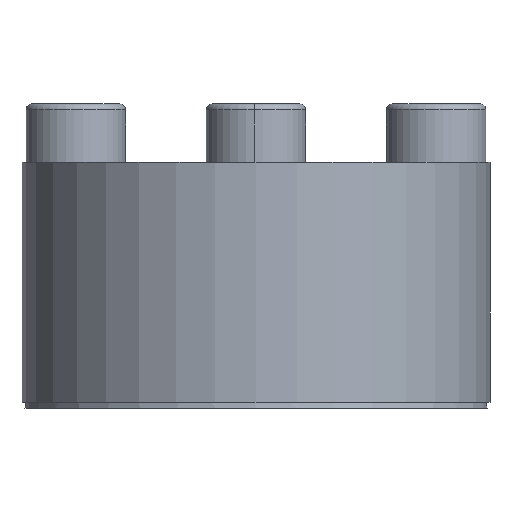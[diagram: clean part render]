
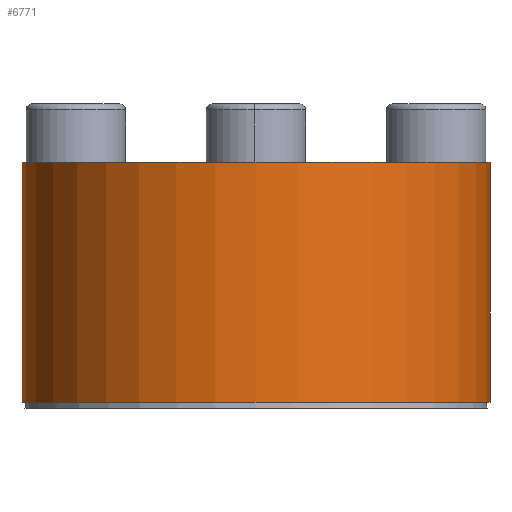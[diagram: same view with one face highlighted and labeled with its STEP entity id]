
A CAD part, front view. The second image highlights one B-rep face of the part: STEP entity #6771.
In plain terms, the highlighted cylindrical face has radius 20 mm (diameter 40 mm), a partial arc.
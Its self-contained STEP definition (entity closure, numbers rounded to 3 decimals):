
#45 = LINE ( 'NONE', #5445, #4300 ) ;
#252 = VERTEX_POINT ( 'NONE', #5326 ) ;
#647 = EDGE_CURVE ( 'NONE', #5009, #252, #1102, .T. ) ;
#873 = DIRECTION ( 'NONE',  ( 0., 0., 1. ) ) ;
#965 = CARTESIAN_POINT ( 'NONE',  ( 0., 0., 0.488 ) ) ;
#1010 = CARTESIAN_POINT ( 'NONE',  ( 20., 0., 0.488 ) ) ;
#1102 = CIRCLE ( 'NONE', #6652, 20. ) ;
#1384 = EDGE_CURVE ( 'NONE', #5708, #5009, #1885, .T. ) ;
#1388 = DIRECTION ( 'NONE',  ( -1., 0., 0. ) ) ;
#1398 = DIRECTION ( 'NONE',  ( 0., 0., -1. ) ) ;
#1422 = CARTESIAN_POINT ( 'NONE',  ( 0., 0., 20.988 ) ) ;
#1458 = CARTESIAN_POINT ( 'NONE',  ( 20., 0., 0.488 ) ) ;
#1472 = ORIENTED_EDGE ( 'NONE', *, *, #647, .T. ) ;
#1749 = EDGE_CURVE ( 'NONE', #5708, #4867, #2076, .T. ) ;
#1885 = LINE ( 'NONE', #1010, #3199 ) ;
#1922 = ORIENTED_EDGE ( 'NONE', *, *, #1384, .T. ) ;
#2076 = CIRCLE ( 'NONE', #4404, 20. ) ;
#2472 = CARTESIAN_POINT ( 'NONE',  ( 20., 0., 20.988 ) ) ;
#3087 = ORIENTED_EDGE ( 'NONE', *, *, #4705, .F. ) ;
#3095 = DIRECTION ( 'NONE',  ( 0., 0., -1. ) ) ;
#3199 = VECTOR ( 'NONE', #873, 1000. ) ;
#3301 = EDGE_LOOP ( 'NONE', ( #3087, #4339, #1922, #1472 ) ) ;
#3723 = DIRECTION ( 'NONE',  ( 0., 0., 1. ) ) ;
#3816 = DIRECTION ( 'NONE',  ( 0., 0., 1. ) ) ;
#4079 = FACE_OUTER_BOUND ( 'NONE', #3301, .T. ) ;
#4150 = AXIS2_PLACEMENT_3D ( 'NONE', #965, #3723, #4309 ) ;
#4300 = VECTOR ( 'NONE', #3816, 1000. ) ;
#4309 = DIRECTION ( 'NONE',  ( 1., 0., 0. ) ) ;
#4339 = ORIENTED_EDGE ( 'NONE', *, *, #1749, .F. ) ;
#4404 = AXIS2_PLACEMENT_3D ( 'NONE', #6393, #3095, #6939 ) ;
#4705 = EDGE_CURVE ( 'NONE', #4867, #252, #45, .T. ) ;
#4842 = CYLINDRICAL_SURFACE ( 'NONE', #4150, 20. ) ;
#4867 = VERTEX_POINT ( 'NONE', #6159 ) ;
#5009 = VERTEX_POINT ( 'NONE', #2472 ) ;
#5326 = CARTESIAN_POINT ( 'NONE',  ( -20., 0., 20.988 ) ) ;
#5445 = CARTESIAN_POINT ( 'NONE',  ( -20., 0., 0.488 ) ) ;
#5708 = VERTEX_POINT ( 'NONE', #1458 ) ;
#6159 = CARTESIAN_POINT ( 'NONE',  ( -20., 0., 0.488 ) ) ;
#6393 = CARTESIAN_POINT ( 'NONE',  ( 0., 0., 0.488 ) ) ;
#6652 = AXIS2_PLACEMENT_3D ( 'NONE', #1422, #1398, #1388 ) ;
#6771 = ADVANCED_FACE ( 'NONE', ( #4079 ), #4842, .T. ) ;
#6939 = DIRECTION ( 'NONE',  ( -1., 0., 0. ) ) ;
